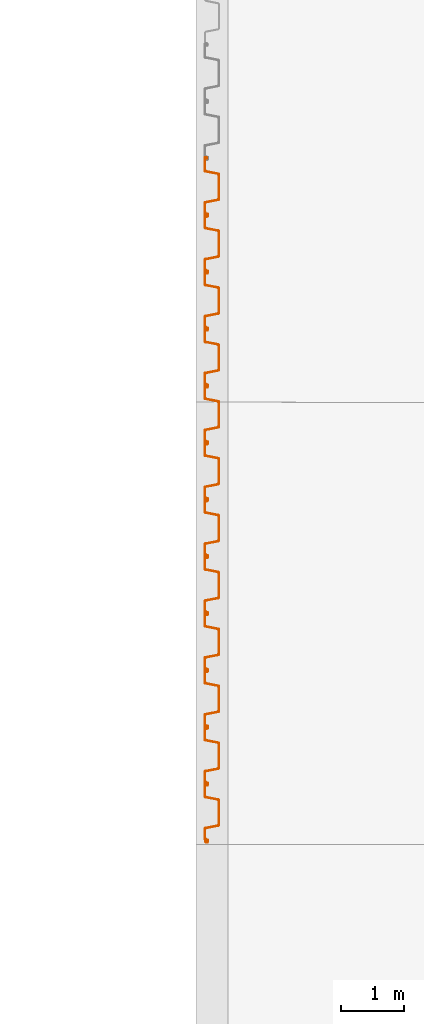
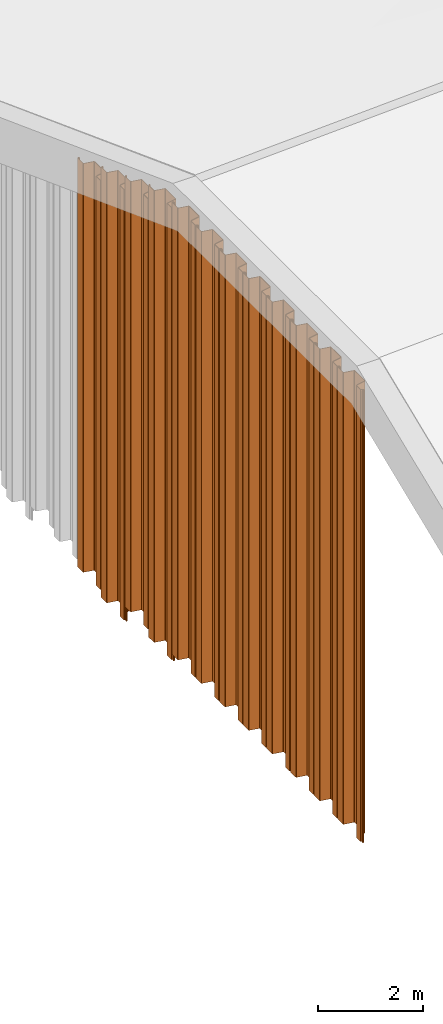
# One storey, part 10 of 15: 12 proxies.
"""IFC2X3 building model written with IfcOpenShell, lengths in millimetres."""

from ifc_helpers import new_model, entity, si_unit, converted_unit, derived_unit, direction, frame, frame_2d, origin, place, context, subcontext, project, spatial, polyline, circle_curve, parameter, trimmed, segment, composite_curve, outline, extrude, source, transform, mapped, material, type_object, type_shapes, element, save


model = new_model("IFC2X3")

# Units and contexts
model_context = context("Model", 3, precision=0.01, world=origin(), true_north=direction((6.12303176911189e-17, 1.0)))
body_context = subcontext(model_context, "Body", "Model", "MODEL_VIEW")
ifc_project = project(units=[si_unit("LENGTHUNIT", "METRE", prefix="MILLI"), si_unit("AREAUNIT", "SQUARE_METRE"), si_unit("VOLUMEUNIT", "CUBIC_METRE"), converted_unit("PLANEANGLEUNIT", "DEGREE", entity("IfcRatioMeasure", 0.0174532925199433), si_unit("PLANEANGLEUNIT", "RADIAN"), dimensions=[0, 0, 0, 0, 0, 0, 0]), si_unit("MASSUNIT", "GRAM", prefix="KILO"), derived_unit("MASSDENSITYUNIT", [(si_unit("MASSUNIT", "GRAM", prefix="KILO"), 1), (si_unit("LENGTHUNIT", "METRE"), -3)]), derived_unit("MOMENTOFINERTIAUNIT", [(si_unit("LENGTHUNIT", "METRE"), 4)]), si_unit("TIMEUNIT", "SECOND"), si_unit("FREQUENCYUNIT", "HERTZ"), si_unit("THERMODYNAMICTEMPERATUREUNIT", "DEGREE_CELSIUS"), derived_unit("THERMALTRANSMITTANCEUNIT", [(si_unit("MASSUNIT", "GRAM", prefix="KILO"), 1), (si_unit("THERMODYNAMICTEMPERATUREUNIT", "KELVIN"), -1), (si_unit("TIMEUNIT", "SECOND"), -3)]), derived_unit("VOLUMETRICFLOWRATEUNIT", [(si_unit("LENGTHUNIT", "METRE"), 3), (si_unit("TIMEUNIT", "SECOND"), -1)]), si_unit("ELECTRICCURRENTUNIT", "AMPERE"), si_unit("ELECTRICVOLTAGEUNIT", "VOLT"), si_unit("POWERUNIT", "WATT"), si_unit("FORCEUNIT", "NEWTON", prefix="KILO"), si_unit("ILLUMINANCEUNIT", "LUX"), si_unit("LUMINOUSFLUXUNIT", "LUMEN"), si_unit("LUMINOUSINTENSITYUNIT", "CANDELA"), derived_unit("USERDEFINED", [(si_unit("MASSUNIT", "GRAM", prefix="KILO"), -1), (si_unit("LENGTHUNIT", "METRE"), -2), (si_unit("TIMEUNIT", "SECOND"), 3), (si_unit("LUMINOUSFLUXUNIT", "LUMEN"), 1)]), derived_unit("LINEARVELOCITYUNIT", [(si_unit("LENGTHUNIT", "METRE"), 1), (si_unit("TIMEUNIT", "SECOND"), -1)]), si_unit("PRESSUREUNIT", "PASCAL"), derived_unit("USERDEFINED", [(si_unit("LENGTHUNIT", "METRE"), -2), (si_unit("MASSUNIT", "GRAM", prefix="KILO"), 1), (si_unit("TIMEUNIT", "SECOND"), -2)]), derived_unit("LINEARFORCEUNIT", [(si_unit("MASSUNIT", "GRAM", prefix="KILO"), 1), (si_unit("LENGTHUNIT", "METRE"), 1), (si_unit("TIMEUNIT", "SECOND"), -2), (si_unit("LENGTHUNIT", "METRE"), -1)]), derived_unit("PLANARFORCEUNIT", [(si_unit("MASSUNIT", "GRAM", prefix="KILO"), 1), (si_unit("LENGTHUNIT", "METRE"), 1), (si_unit("TIMEUNIT", "SECOND"), -2), (si_unit("LENGTHUNIT", "METRE"), -2)])], contexts=[model_context])

# Site, building, storey
site_placement = place(None, origin())
site = spatial("IfcSite", under=ifc_project, at=site_placement, Name="Default", CompositionType="ELEMENT")
building_placement = place(site_placement, origin())
building = spatial("IfcBuilding", under=site, at=building_placement, CompositionType="ELEMENT")
storey_placement = place(building_placement, frame((0.0, 0.0, 9500.0)))
storey = spatial("IfcBuildingStorey", under=building, at=storey_placement, Name="AP+9.500", CompositionType="ELEMENT", Elevation=9500.0)

# Proxies
ifc_material = material(Name="<Unnamed>")
building_element_proxy_type_1 = type_object("IfcBuildingElementProxyType", Name="鋼矢板10H型:鋼矢板10H型", PredefinedType="NOTDEFINED", material=ifc_material)
shared_shape_1 = source(origin(), body_context, "Body", "SweptSolid", [
    extrude(outline(composite_curve([segment(trimmed(circle_curve(frame_2d((85.3662976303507, 306.644432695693), x_axis=(0.422618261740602, 0.906307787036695)), 13.885714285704), [parameter(24.9999999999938)], [parameter(90.0000000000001)], True, "PARAMETER"), True, "CONTINUOUS"), segment(polyline([(72.7815666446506, 312.512789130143), (9.8129512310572, 177.476157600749)]), True, "CONTINUOUS"), segment(trimmed(circle_curve(frame_2d((29.3891994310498, 168.347603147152), x_axis=(0.422618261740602, 0.906307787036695)), 21.6), [parameter(90.0000000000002)], [parameter(168.69006752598)], True, "PARAMETER"), True, "CONTINUOUS"), segment(polyline([(16.598697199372, 150.941769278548), (175.329723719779, 34.2998683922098)]), True, "CONTINUOUS"), segment(trimmed(circle_curve(frame_2d((168.93447260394, 25.596951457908), x_axis=(0.422618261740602, 0.906307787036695)), 10.7999999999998), [parameter(270.0)], [parameter(348.690067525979)], True, "PARAMETER"), False, "CONTINUOUS"), segment(polyline([(178.722596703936, 21.0326742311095), (18.2974003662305, -323.000269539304)]), True, "CONTINUOUS"), segment(trimmed(circle_curve(frame_2d((8.50927626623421, -318.435992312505), x_axis=(0.422618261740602, 0.906307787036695)), 10.8), [parameter(191.30993247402)], [parameter(269.999999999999)], True, "PARAMETER"), False, "CONTINUOUS"), segment(polyline([(5.95324328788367, -328.929166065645), (-185.429973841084, -282.310113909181)]), True, "CONTINUOUS"), segment(trimmed(circle_curve(frame_2d((-190.542039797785, -303.296461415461), x_axis=(0.422618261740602, 0.906307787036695)), 21.6000000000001), [parameter(11.3099324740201)], [parameter(90.0000000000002)], True, "PARAMETER"), True, "CONTINUOUS"), segment(polyline([(-210.118287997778, -294.167906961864), (-290.330886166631, -466.184378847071)]), True, "CONTINUOUS"), segment(trimmed(circle_curve(frame_2d((-270.754637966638, -475.312933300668), x_axis=(0.422618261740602, 0.906307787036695)), 21.6), [parameter(90.0000000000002)], [parameter(269.999999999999)], True, "PARAMETER"), True, "CONTINUOUS"), segment(polyline([(-251.178389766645, -484.441487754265), (-249.065298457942, -479.909948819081)]), True, "CONTINUOUS"), segment(polyline([(-249.065298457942, -479.909948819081), (-258.853422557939, -475.345671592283)]), True, "CONTINUOUS"), segment(polyline([(-258.853422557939, -475.345671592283), (-260.966513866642, -479.877210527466)]), True, "CONTINUOUS"), segment(trimmed(circle_curve(frame_2d((-270.754637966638, -475.312933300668), x_axis=(0.422618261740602, 0.906307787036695)), 10.8), [parameter(90.0000000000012)], [parameter(270.0)], True, "PARAMETER"), False, "CONTINUOUS"), segment(polyline([(-280.542762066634, -470.748656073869), (-200.330163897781, -298.732184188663)]), True, "CONTINUOUS"), segment(trimmed(circle_curve(frame_2d((-190.542039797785, -303.296461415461), x_axis=(0.422618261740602, 0.906307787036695)), 10.8), [parameter(11.3099324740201)], [parameter(89.9999999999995)], True, "PARAMETER"), False, "CONTINUOUS"), segment(polyline([(-187.986006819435, -292.803287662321), (3.39721030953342, -339.422339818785)]), True, "CONTINUOUS"), segment(trimmed(circle_curve(frame_2d((8.50927626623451, -318.435992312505), x_axis=(0.422618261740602, 0.906307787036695)), 21.6), [parameter(191.30993247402)], [parameter(270.0)], True, "PARAMETER"), True, "CONTINUOUS"), segment(polyline([(28.0855244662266, -327.564546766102), (188.510720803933, 16.4683970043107)]), True, "CONTINUOUS"), segment(trimmed(circle_curve(frame_2d((168.93447260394, 25.5969514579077), x_axis=(0.422618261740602, 0.906307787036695)), 21.6), [parameter(270.0)], [parameter(348.69006752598)], True, "PARAMETER"), True, "CONTINUOUS"), segment(polyline([(181.724974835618, 43.0027853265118), (22.9939483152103, 159.644686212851)]), True, "CONTINUOUS"), segment(trimmed(circle_curve(frame_2d((29.3891994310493, 168.347603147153), x_axis=(0.422618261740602, 0.906307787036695)), 10.7999999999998), [parameter(89.9999999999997)], [parameter(168.690067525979)], True, "PARAMETER"), False, "CONTINUOUS"), segment(polyline([(19.6010753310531, 172.911880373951), (82.5696907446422, 307.948511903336)]), True, "CONTINUOUS"), segment(trimmed(circle_curve(frame_2d((85.3662976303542, 306.64443269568), x_axis=(0.422618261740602, 0.906307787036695)), 3.08571428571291), [parameter(25.0000000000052)], [parameter(90.0000000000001)], True, "PARAMETER"), False, "CONTINUOUS"), segment(polyline([(85.3662976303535, 309.730146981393), (122.220231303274, 309.730146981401)]), True, "CONTINUOUS"), segment(trimmed(circle_curve(frame_2d((122.220231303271, 323.615861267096), x_axis=(0.422618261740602, 0.906307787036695)), 13.8857142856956), [parameter(205.000000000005)], [parameter(270.0)], True, "PARAMETER"), True, "CONTINUOUS"), segment(polyline([(134.804962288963, 317.747504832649), (141.079261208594, 331.202782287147)]), True, "CONTINUOUS"), segment(trimmed(circle_curve(frame_2d((121.503013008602, 340.331336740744), x_axis=(0.422618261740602, 0.906307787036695)), 21.6), [parameter(270.0)], [parameter(90.0000000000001)], True, "PARAMETER"), True, "CONTINUOUS"), segment(polyline([(101.926764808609, 349.459891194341), (99.8136734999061, 344.928352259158)]), True, "CONTINUOUS"), segment(polyline([(99.8136734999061, 344.928352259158), (109.601797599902, 340.364075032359)]), True, "CONTINUOUS"), segment(polyline([(109.601797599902, 340.364075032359), (111.714888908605, 344.895613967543)]), True, "CONTINUOUS"), segment(trimmed(circle_curve(frame_2d((121.503013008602, 340.331336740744), x_axis=(0.422618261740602, 0.906307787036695)), 10.8), [parameter(270.0)], [parameter(89.9999999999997)], True, "PARAMETER"), False, "CONTINUOUS"), segment(polyline([(131.291137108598, 335.767059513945), (125.01683818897, 322.311782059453)]), True, "CONTINUOUS"), segment(trimmed(circle_curve(frame_2d((122.220231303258, 323.615861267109), x_axis=(0.422618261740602, 0.906307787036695)), 3.08571428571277), [parameter(204.999999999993)], [parameter(270.0)], True, "PARAMETER"), False, "CONTINUOUS"), segment(polyline([(122.220231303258, 320.530146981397), (85.3662976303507, 320.530146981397)]), True, "CONTINUOUS")], self_intersect=False)), frame((95.205667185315, -48.8888888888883, -9500.0), z_axis=(0.0, 0.0, -1.0), x_axis=(0.4226182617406, 0.906307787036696, 0.0)), (0.0, 0.0, -1.0), 9500.0),
])
type_shapes(building_element_proxy_type_1, [shared_shape_1])
proxy_placement = place(storey_placement, frame((89754.0, 10405.0, 5515.47006997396), z_axis=(0.0, 0.0, 1.0), x_axis=(0.0, -1.0, 0.0)))
element("IfcBuildingElementProxy", 1, at=proxy_placement, inside=storey, type_object=building_element_proxy_type_1, material=ifc_material, Name="鋼矢板10H型:鋼矢板10H型", ObjectType="鋼矢板10H型:鋼矢板10H型", context=body_context, shape_type="MappedRepresentation", body=[
    mapped(shared_shape_1, transform((0.0, 0.0, 0.0), scale=1.0)),
])
building_element_proxy_type_2 = type_object("IfcBuildingElementProxyType", Name="鋼矢板10H型:鋼矢板10H型", PredefinedType="NOTDEFINED", material=ifc_material)
shared_shape_2 = source(origin(), body_context, "Body", "SweptSolid", [
    extrude(outline(composite_curve([segment(trimmed(circle_curve(frame_2d((85.3662976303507, 306.644432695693), x_axis=(0.422618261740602, 0.906307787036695)), 13.885714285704), [parameter(24.9999999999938)], [parameter(90.0000000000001)], True, "PARAMETER"), True, "CONTINUOUS"), segment(polyline([(72.7815666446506, 312.512789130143), (9.8129512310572, 177.476157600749)]), True, "CONTINUOUS"), segment(trimmed(circle_curve(frame_2d((29.3891994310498, 168.347603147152), x_axis=(0.422618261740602, 0.906307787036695)), 21.6), [parameter(90.0000000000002)], [parameter(168.69006752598)], True, "PARAMETER"), True, "CONTINUOUS"), segment(polyline([(16.598697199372, 150.941769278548), (175.329723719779, 34.2998683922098)]), True, "CONTINUOUS"), segment(trimmed(circle_curve(frame_2d((168.93447260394, 25.596951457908), x_axis=(0.422618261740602, 0.906307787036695)), 10.7999999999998), [parameter(270.0)], [parameter(348.690067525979)], True, "PARAMETER"), False, "CONTINUOUS"), segment(polyline([(178.722596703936, 21.0326742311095), (18.2974003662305, -323.000269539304)]), True, "CONTINUOUS"), segment(trimmed(circle_curve(frame_2d((8.50927626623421, -318.435992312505), x_axis=(0.422618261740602, 0.906307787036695)), 10.8), [parameter(191.30993247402)], [parameter(269.999999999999)], True, "PARAMETER"), False, "CONTINUOUS"), segment(polyline([(5.95324328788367, -328.929166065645), (-185.429973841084, -282.310113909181)]), True, "CONTINUOUS"), segment(trimmed(circle_curve(frame_2d((-190.542039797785, -303.296461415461), x_axis=(0.422618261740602, 0.906307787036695)), 21.6000000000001), [parameter(11.3099324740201)], [parameter(90.0000000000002)], True, "PARAMETER"), True, "CONTINUOUS"), segment(polyline([(-210.118287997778, -294.167906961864), (-290.330886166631, -466.184378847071)]), True, "CONTINUOUS"), segment(trimmed(circle_curve(frame_2d((-270.754637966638, -475.312933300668), x_axis=(0.422618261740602, 0.906307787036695)), 21.6), [parameter(90.0000000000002)], [parameter(269.999999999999)], True, "PARAMETER"), True, "CONTINUOUS"), segment(polyline([(-251.178389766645, -484.441487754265), (-249.065298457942, -479.909948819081)]), True, "CONTINUOUS"), segment(polyline([(-249.065298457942, -479.909948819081), (-258.853422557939, -475.345671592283)]), True, "CONTINUOUS"), segment(polyline([(-258.853422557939, -475.345671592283), (-260.966513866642, -479.877210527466)]), True, "CONTINUOUS"), segment(trimmed(circle_curve(frame_2d((-270.754637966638, -475.312933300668), x_axis=(0.422618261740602, 0.906307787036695)), 10.8), [parameter(90.0000000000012)], [parameter(270.0)], True, "PARAMETER"), False, "CONTINUOUS"), segment(polyline([(-280.542762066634, -470.748656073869), (-200.330163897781, -298.732184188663)]), True, "CONTINUOUS"), segment(trimmed(circle_curve(frame_2d((-190.542039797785, -303.296461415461), x_axis=(0.422618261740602, 0.906307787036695)), 10.8), [parameter(11.3099324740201)], [parameter(89.9999999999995)], True, "PARAMETER"), False, "CONTINUOUS"), segment(polyline([(-187.986006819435, -292.803287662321), (3.39721030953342, -339.422339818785)]), True, "CONTINUOUS"), segment(trimmed(circle_curve(frame_2d((8.50927626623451, -318.435992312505), x_axis=(0.422618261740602, 0.906307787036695)), 21.6), [parameter(191.30993247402)], [parameter(270.0)], True, "PARAMETER"), True, "CONTINUOUS"), segment(polyline([(28.0855244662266, -327.564546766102), (188.510720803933, 16.4683970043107)]), True, "CONTINUOUS"), segment(trimmed(circle_curve(frame_2d((168.93447260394, 25.5969514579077), x_axis=(0.422618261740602, 0.906307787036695)), 21.6), [parameter(270.0)], [parameter(348.69006752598)], True, "PARAMETER"), True, "CONTINUOUS"), segment(polyline([(181.724974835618, 43.0027853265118), (22.9939483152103, 159.644686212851)]), True, "CONTINUOUS"), segment(trimmed(circle_curve(frame_2d((29.3891994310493, 168.347603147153), x_axis=(0.422618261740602, 0.906307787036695)), 10.7999999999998), [parameter(89.9999999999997)], [parameter(168.690067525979)], True, "PARAMETER"), False, "CONTINUOUS"), segment(polyline([(19.6010753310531, 172.911880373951), (82.5696907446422, 307.948511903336)]), True, "CONTINUOUS"), segment(trimmed(circle_curve(frame_2d((85.3662976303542, 306.64443269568), x_axis=(0.422618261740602, 0.906307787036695)), 3.08571428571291), [parameter(25.0000000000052)], [parameter(90.0000000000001)], True, "PARAMETER"), False, "CONTINUOUS"), segment(polyline([(85.3662976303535, 309.730146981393), (122.220231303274, 309.730146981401)]), True, "CONTINUOUS"), segment(trimmed(circle_curve(frame_2d((122.220231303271, 323.615861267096), x_axis=(0.422618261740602, 0.906307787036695)), 13.8857142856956), [parameter(205.000000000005)], [parameter(270.0)], True, "PARAMETER"), True, "CONTINUOUS"), segment(polyline([(134.804962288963, 317.747504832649), (141.079261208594, 331.202782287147)]), True, "CONTINUOUS"), segment(trimmed(circle_curve(frame_2d((121.503013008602, 340.331336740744), x_axis=(0.422618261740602, 0.906307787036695)), 21.6), [parameter(270.0)], [parameter(90.0000000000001)], True, "PARAMETER"), True, "CONTINUOUS"), segment(polyline([(101.926764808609, 349.459891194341), (99.8136734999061, 344.928352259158)]), True, "CONTINUOUS"), segment(polyline([(99.8136734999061, 344.928352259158), (109.601797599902, 340.364075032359)]), True, "CONTINUOUS"), segment(polyline([(109.601797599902, 340.364075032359), (111.714888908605, 344.895613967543)]), True, "CONTINUOUS"), segment(trimmed(circle_curve(frame_2d((121.503013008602, 340.331336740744), x_axis=(0.422618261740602, 0.906307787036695)), 10.8), [parameter(270.0)], [parameter(89.9999999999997)], True, "PARAMETER"), False, "CONTINUOUS"), segment(polyline([(131.291137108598, 335.767059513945), (125.01683818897, 322.311782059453)]), True, "CONTINUOUS"), segment(trimmed(circle_curve(frame_2d((122.220231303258, 323.615861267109), x_axis=(0.422618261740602, 0.906307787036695)), 3.08571428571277), [parameter(204.999999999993)], [parameter(270.0)], True, "PARAMETER"), False, "CONTINUOUS"), segment(polyline([(122.220231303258, 320.530146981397), (85.3662976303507, 320.530146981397)]), True, "CONTINUOUS")], self_intersect=False)), frame((95.205667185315, -48.8888888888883, -10000.0), z_axis=(0.0, 0.0, -1.0), x_axis=(0.4226182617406, 0.906307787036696, 0.0)), (0.0, 0.0, -1.0), 10000.0),
])
type_shapes(building_element_proxy_type_2, [shared_shape_2])
for number, where, z_axis, x_axis in (
    (2, (89754.0, 9505.0, 5851.61409448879), (0.0, 0.0, 1.0), (0.0, -1.0, 0.0)),
    (3, (89754.0, 8605.0, 6187.75811900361), (0.0, 0.0, 1.0), (0.0, -1.0, 0.0)),
):
    element("IfcBuildingElementProxy", number, at=place(storey_placement, frame(where, z_axis=z_axis, x_axis=x_axis)), inside=storey, type_object=building_element_proxy_type_2, material=ifc_material, Name="鋼矢板10H型:鋼矢板10H型", ObjectType="鋼矢板10H型:鋼矢板10H型", context=body_context, shape_type="MappedRepresentation", body=[
        mapped(shared_shape_2, transform((0.0, 0.0, 0.0), scale=1.0)),
    ])
building_element_proxy_type_3 = type_object("IfcBuildingElementProxyType", Name="鋼矢板10H型:鋼矢板10H型", PredefinedType="NOTDEFINED", material=ifc_material)
shared_shape_3 = source(origin(), body_context, "Body", "SweptSolid", [
    extrude(outline(composite_curve([segment(trimmed(circle_curve(frame_2d((85.3662976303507, 306.644432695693), x_axis=(0.422618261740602, 0.906307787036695)), 13.885714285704), [parameter(24.9999999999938)], [parameter(90.0000000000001)], True, "PARAMETER"), True, "CONTINUOUS"), segment(polyline([(72.7815666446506, 312.512789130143), (9.8129512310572, 177.476157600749)]), True, "CONTINUOUS"), segment(trimmed(circle_curve(frame_2d((29.3891994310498, 168.347603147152), x_axis=(0.422618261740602, 0.906307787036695)), 21.6), [parameter(90.0000000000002)], [parameter(168.69006752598)], True, "PARAMETER"), True, "CONTINUOUS"), segment(polyline([(16.598697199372, 150.941769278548), (175.329723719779, 34.2998683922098)]), True, "CONTINUOUS"), segment(trimmed(circle_curve(frame_2d((168.93447260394, 25.596951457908), x_axis=(0.422618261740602, 0.906307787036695)), 10.7999999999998), [parameter(270.0)], [parameter(348.690067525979)], True, "PARAMETER"), False, "CONTINUOUS"), segment(polyline([(178.722596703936, 21.0326742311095), (18.2974003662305, -323.000269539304)]), True, "CONTINUOUS"), segment(trimmed(circle_curve(frame_2d((8.50927626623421, -318.435992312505), x_axis=(0.422618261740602, 0.906307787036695)), 10.8), [parameter(191.30993247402)], [parameter(269.999999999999)], True, "PARAMETER"), False, "CONTINUOUS"), segment(polyline([(5.95324328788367, -328.929166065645), (-185.429973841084, -282.310113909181)]), True, "CONTINUOUS"), segment(trimmed(circle_curve(frame_2d((-190.542039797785, -303.296461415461), x_axis=(0.422618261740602, 0.906307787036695)), 21.6000000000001), [parameter(11.3099324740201)], [parameter(90.0000000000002)], True, "PARAMETER"), True, "CONTINUOUS"), segment(polyline([(-210.118287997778, -294.167906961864), (-290.330886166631, -466.184378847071)]), True, "CONTINUOUS"), segment(trimmed(circle_curve(frame_2d((-270.754637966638, -475.312933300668), x_axis=(0.422618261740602, 0.906307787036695)), 21.6), [parameter(90.0000000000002)], [parameter(269.999999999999)], True, "PARAMETER"), True, "CONTINUOUS"), segment(polyline([(-251.178389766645, -484.441487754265), (-249.065298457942, -479.909948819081)]), True, "CONTINUOUS"), segment(polyline([(-249.065298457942, -479.909948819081), (-258.853422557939, -475.345671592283)]), True, "CONTINUOUS"), segment(polyline([(-258.853422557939, -475.345671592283), (-260.966513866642, -479.877210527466)]), True, "CONTINUOUS"), segment(trimmed(circle_curve(frame_2d((-270.754637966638, -475.312933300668), x_axis=(0.422618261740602, 0.906307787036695)), 10.8), [parameter(90.0000000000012)], [parameter(270.0)], True, "PARAMETER"), False, "CONTINUOUS"), segment(polyline([(-280.542762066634, -470.748656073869), (-200.330163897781, -298.732184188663)]), True, "CONTINUOUS"), segment(trimmed(circle_curve(frame_2d((-190.542039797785, -303.296461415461), x_axis=(0.422618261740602, 0.906307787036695)), 10.8), [parameter(11.3099324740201)], [parameter(89.9999999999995)], True, "PARAMETER"), False, "CONTINUOUS"), segment(polyline([(-187.986006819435, -292.803287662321), (3.39721030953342, -339.422339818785)]), True, "CONTINUOUS"), segment(trimmed(circle_curve(frame_2d((8.50927626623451, -318.435992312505), x_axis=(0.422618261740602, 0.906307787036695)), 21.6), [parameter(191.30993247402)], [parameter(270.0)], True, "PARAMETER"), True, "CONTINUOUS"), segment(polyline([(28.0855244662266, -327.564546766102), (188.510720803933, 16.4683970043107)]), True, "CONTINUOUS"), segment(trimmed(circle_curve(frame_2d((168.93447260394, 25.5969514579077), x_axis=(0.422618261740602, 0.906307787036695)), 21.6), [parameter(270.0)], [parameter(348.69006752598)], True, "PARAMETER"), True, "CONTINUOUS"), segment(polyline([(181.724974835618, 43.0027853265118), (22.9939483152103, 159.644686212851)]), True, "CONTINUOUS"), segment(trimmed(circle_curve(frame_2d((29.3891994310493, 168.347603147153), x_axis=(0.422618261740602, 0.906307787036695)), 10.7999999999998), [parameter(89.9999999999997)], [parameter(168.690067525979)], True, "PARAMETER"), False, "CONTINUOUS"), segment(polyline([(19.6010753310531, 172.911880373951), (82.5696907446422, 307.948511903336)]), True, "CONTINUOUS"), segment(trimmed(circle_curve(frame_2d((85.3662976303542, 306.64443269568), x_axis=(0.422618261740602, 0.906307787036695)), 3.08571428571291), [parameter(25.0000000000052)], [parameter(90.0000000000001)], True, "PARAMETER"), False, "CONTINUOUS"), segment(polyline([(85.3662976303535, 309.730146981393), (122.220231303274, 309.730146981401)]), True, "CONTINUOUS"), segment(trimmed(circle_curve(frame_2d((122.220231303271, 323.615861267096), x_axis=(0.422618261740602, 0.906307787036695)), 13.8857142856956), [parameter(205.000000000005)], [parameter(270.0)], True, "PARAMETER"), True, "CONTINUOUS"), segment(polyline([(134.804962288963, 317.747504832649), (141.079261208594, 331.202782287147)]), True, "CONTINUOUS"), segment(trimmed(circle_curve(frame_2d((121.503013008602, 340.331336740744), x_axis=(0.422618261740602, 0.906307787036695)), 21.6), [parameter(270.0)], [parameter(90.0000000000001)], True, "PARAMETER"), True, "CONTINUOUS"), segment(polyline([(101.926764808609, 349.459891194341), (99.8136734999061, 344.928352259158)]), True, "CONTINUOUS"), segment(polyline([(99.8136734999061, 344.928352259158), (109.601797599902, 340.364075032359)]), True, "CONTINUOUS"), segment(polyline([(109.601797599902, 340.364075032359), (111.714888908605, 344.895613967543)]), True, "CONTINUOUS"), segment(trimmed(circle_curve(frame_2d((121.503013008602, 340.331336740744), x_axis=(0.422618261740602, 0.906307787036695)), 10.8), [parameter(270.0)], [parameter(89.9999999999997)], True, "PARAMETER"), False, "CONTINUOUS"), segment(polyline([(131.291137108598, 335.767059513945), (125.01683818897, 322.311782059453)]), True, "CONTINUOUS"), segment(trimmed(circle_curve(frame_2d((122.220231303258, 323.615861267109), x_axis=(0.422618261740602, 0.906307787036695)), 3.08571428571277), [parameter(204.999999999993)], [parameter(270.0)], True, "PARAMETER"), False, "CONTINUOUS"), segment(polyline([(122.220231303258, 320.530146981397), (85.3662976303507, 320.530146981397)]), True, "CONTINUOUS")], self_intersect=False)), frame((95.205667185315, -48.8888888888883, -10500.0), z_axis=(0.0, 0.0, -1.0), x_axis=(0.4226182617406, 0.906307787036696, 0.0)), (0.0, 0.0, -1.0), 10500.0),
])
type_shapes(building_element_proxy_type_3, [shared_shape_3])
for number, where, z_axis, x_axis in (
    (4, (89754.0, 7705.0, 6523.90214351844), (0.0, 0.0, 1.0), (0.0, -1.0, 0.0)),
    (5, (89754.0, 6805.0, 6663.0), (0.0, 0.0, 1.0), (0.0, -1.0, 0.0)),
    (6, (89754.0, 5905.0, 6663.0), (0.0, 0.0, 1.0), (0.0, -1.0, 0.0)),
    (7, (89754.0, 5005.0, 6663.0), (0.0, 0.0, 1.0), (0.0, -1.0, 0.0)),
    (8, (89754.0, 4105.0, 6663.0), (0.0, 0.0, 1.0), (0.0, -1.0, 0.0)),
    (9, (89754.0, 3205.0, 6663.0), (0.0, 0.0, 1.0), (0.0, -1.0, 0.0)),
    (10, (89754.0, 2305.0, 6663.0), (0.0, 0.0, 1.0), (0.0, -1.0, 0.0)),
    (11, (89754.0, 1405.0, 6663.0), (0.0, 0.0, 1.0), (0.0, -1.0, 0.0)),
    (12, (89754.0, 505.0, 6663.0), (0.0, 0.0, 1.0), (0.0, -1.0, 0.0)),
):
    element("IfcBuildingElementProxy", number, at=place(storey_placement, frame(where, z_axis=z_axis, x_axis=x_axis)), inside=storey, type_object=building_element_proxy_type_3, material=ifc_material, Name="鋼矢板10H型:鋼矢板10H型", ObjectType="鋼矢板10H型:鋼矢板10H型", context=body_context, shape_type="MappedRepresentation", body=[
        mapped(shared_shape_3, transform((0.0, 0.0, 0.0), scale=1.0)),
    ])

save(model, "model.ifc")
